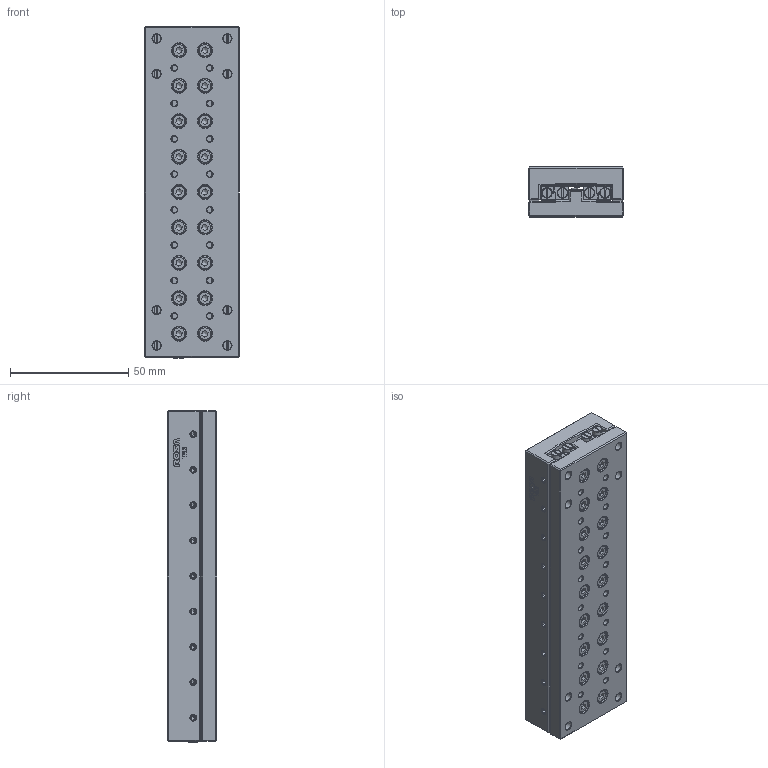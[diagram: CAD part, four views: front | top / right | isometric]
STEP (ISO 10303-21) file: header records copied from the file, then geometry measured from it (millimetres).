
FILE_DESCRIPTION(/* description */ ('Tavola TRL02 L=140 mm'),/* implementation_level */ '2;1');
FILE_NAME(/* name */ 'TRL020140-00.stp',/* time_stamp */ '2024-01-31T08:48:06+01:00',/* author */ ('ufficiotecnico'),/* organization */ (''),/* preprocessor_version */ 'ST-DEVELOPER v20',/* originating_system */ 'Autodesk Inventor 2024',/* authorisation */ '');
FILE_SCHEMA (('AUTOMOTIVE_DESIGN { 1 0 10303 214 3 1 1 }'));
Products named in the file (2): TRL020140-00; TRL020140-00_1
Assembly tree (1 placements, depth 2):
  TRL020140-00
    TRL020140-00_1
Bounding box: 40 x 21 x 140.6 mm (x, y, z)
Volume: 105943.4 mm3; surface area: 46570.8 mm2
Topology: 14 solids, 14 shells, 2309 faces, 5981 edges, 3864 vertices
Faces by surface type: plane 1469, cylinder 327, cone 275, bspline 156, torus 82
Full cylindrical faces by diameter (mm): 0.774 x4, 1.039 x1, 2 x8, 2.128 x4, 2.459 x52, 2.856 x1, 3 x36, 3.5 x8, 4.4 x36, 5.5 x36, 6 x44
Entity records: 72521 total; most frequent: CARTESIAN_POINT 15254, ORIENTED_EDGE 11872, DIRECTION 11053, EDGE_CURVE 5936, VERTEX_POINT 3864, AXIS2_PLACEMENT_3D 3718, LINE 3617, VECTOR 3617
